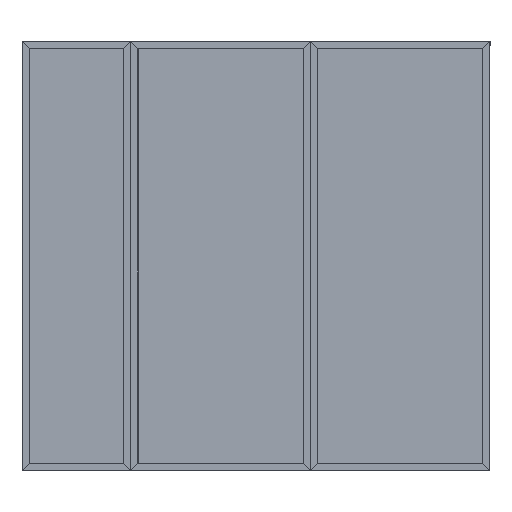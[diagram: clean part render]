
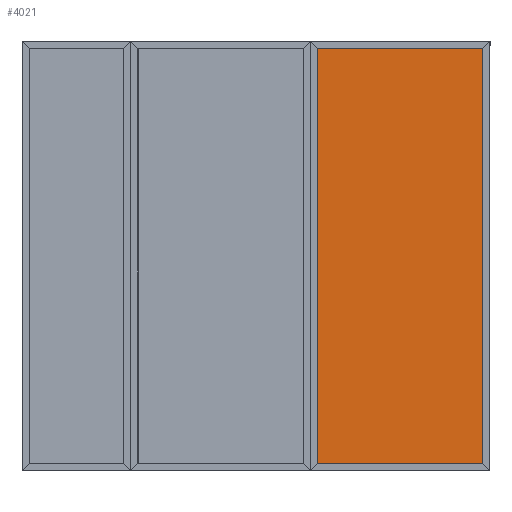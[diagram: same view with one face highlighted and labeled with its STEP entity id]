
A CAD part, top view. The second image highlights one B-rep face of the part: STEP entity #4021.
In plain terms, the highlighted planar face has unit normal (0, 0, 1).
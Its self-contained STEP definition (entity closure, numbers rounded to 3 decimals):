
#752 = LINE ( 'NONE', #33269, #25108 ) ;
#1088 = CARTESIAN_POINT ( 'NONE',  ( 0., -1162.2, -13.25 ) ) ;
#1971 = AXIS2_PLACEMENT_3D ( 'NONE', #21150, #39844, #25774 ) ;
#3854 = VERTEX_POINT ( 'NONE', #24645 ) ;
#4021 = ADVANCED_FACE ( 'NONE', ( #35430 ), #7076, .F. ) ;
#7076 = PLANE ( 'NONE',  #1971 ) ;
#8282 = EDGE_CURVE ( 'NONE', #17143, #45740, #30636, .T. ) ;
#8567 = ORIENTED_EDGE ( 'NONE', *, *, #23697, .F. ) ;
#8912 = VECTOR ( 'NONE', #43714, 1000. ) ;
#12078 = EDGE_LOOP ( 'NONE', ( #29153, #8567, #15816, #19915 ) ) ;
#12127 = VERTEX_POINT ( 'NONE', #37823 ) ;
#13315 = CARTESIAN_POINT ( 'NONE',  ( 0., 1162.2, -13.25 ) ) ;
#13558 = VECTOR ( 'NONE', #25332, 1000. ) ;
#14025 = EDGE_CURVE ( 'NONE', #3854, #17143, #25775, .T. ) ;
#15625 = LINE ( 'NONE', #1088, #8912 ) ;
#15816 = ORIENTED_EDGE ( 'NONE', *, *, #14025, .T. ) ;
#17143 = VERTEX_POINT ( 'NONE', #34076 ) ;
#19915 = ORIENTED_EDGE ( 'NONE', *, *, #8282, .T. ) ;
#21150 = CARTESIAN_POINT ( 'NONE',  ( 0., 0., -13.25 ) ) ;
#23373 = DIRECTION ( 'NONE',  ( -1., 0., 0. ) ) ;
#23697 = EDGE_CURVE ( 'NONE', #3854, #12127, #15625, .T. ) ;
#23894 = VECTOR ( 'NONE', #23373, 1000. ) ;
#24645 = CARTESIAN_POINT ( 'NONE',  ( 465.07, -1162.2, -13.25 ) ) ;
#25108 = VECTOR ( 'NONE', #26252, 1000. ) ;
#25332 = DIRECTION ( 'NONE',  ( 0., 1., 0. ) ) ;
#25774 = DIRECTION ( 'NONE',  ( -1., 0., 0. ) ) ;
#25775 = LINE ( 'NONE', #32834, #13558 ) ;
#26252 = DIRECTION ( 'NONE',  ( 0., 1., 0. ) ) ;
#29153 = ORIENTED_EDGE ( 'NONE', *, *, #38077, .F. ) ;
#30636 = LINE ( 'NONE', #13315, #23894 ) ;
#32834 = CARTESIAN_POINT ( 'NONE',  ( 465.07, 0., -13.25 ) ) ;
#33269 = CARTESIAN_POINT ( 'NONE',  ( -465.07, 0., -13.25 ) ) ;
#34076 = CARTESIAN_POINT ( 'NONE',  ( 465.07, 1162.2, -13.25 ) ) ;
#35430 = FACE_OUTER_BOUND ( 'NONE', #12078, .T. ) ;
#37823 = CARTESIAN_POINT ( 'NONE',  ( -465.07, -1162.2, -13.25 ) ) ;
#38077 = EDGE_CURVE ( 'NONE', #12127, #45740, #752, .T. ) ;
#39708 = CARTESIAN_POINT ( 'NONE',  ( -465.07, 1162.2, -13.25 ) ) ;
#39844 = DIRECTION ( 'NONE',  ( 0., 0., -1. ) ) ;
#43714 = DIRECTION ( 'NONE',  ( -1., 0., 0. ) ) ;
#45740 = VERTEX_POINT ( 'NONE', #39708 ) ;
